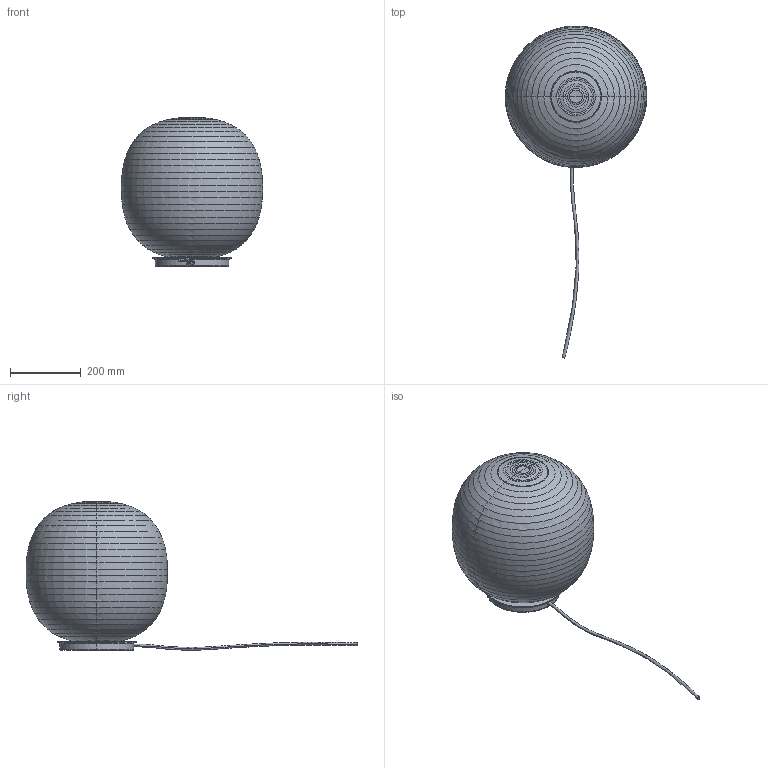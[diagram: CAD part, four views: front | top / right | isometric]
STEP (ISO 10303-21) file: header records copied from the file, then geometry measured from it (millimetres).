
FILE_DESCRIPTION(/* description */ (''),/* implementation_level */ '2;1');
FILE_NAME(/* name */ 'Lantern Globe Table Lamp, Medium',/* time_stamp */ '2020-08-28T23:33:48+02:00',/* author */ (''),/* organization */ (''),/* preprocessor_version */ 'ST-DEVELOPER v15',/* originating_system */ '',/* authorisation */ '');
FILE_SCHEMA (('AUTOMOTIVE_DESIGN'));
Length unit declared in the file: millimetre
Products named in the file (1): Document
Bounding box: 400 x 936.83 x 422.86 mm (x, y, z)
Volume: 2658724 mm3; surface area: 1224896.3 mm2
Topology: 12 solids, 12 shells, 337 faces, 774 edges, 466 vertices
Faces by surface type: bspline 307, plane 30
Entity records: 24505 total; most frequent: CARTESIAN_POINT 19922, ORIENTED_EDGE 1536, EDGE_CURVE 768, B_SPLINE_CURVE_WITH_KNOTS 494, VERTEX_POINT 466, EDGE_LOOP 364, ADVANCED_FACE 337, FACE_OUTER_BOUND 337
